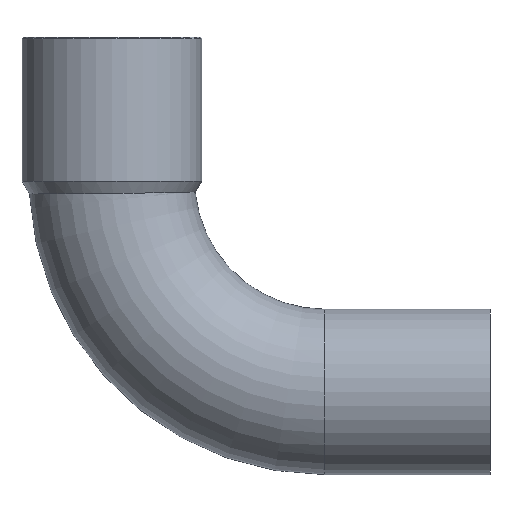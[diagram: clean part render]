
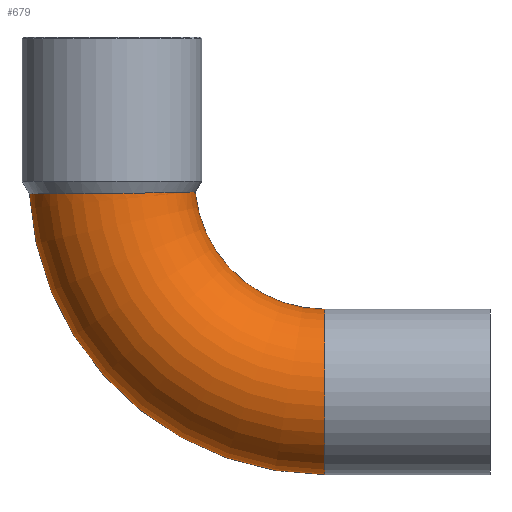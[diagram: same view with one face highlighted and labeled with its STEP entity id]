
A CAD part, front view. The second image highlights one B-rep face of the part: STEP entity #679.
In plain terms, the highlighted toroidal (fillet/blend) face has major radius 18 mm and minor radius 7 mm.
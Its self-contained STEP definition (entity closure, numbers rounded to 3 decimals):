
#49=CARTESIAN_POINT('',(-2.933,0.,-1.255));
#50=VERTEX_POINT('',#49);
#51=CARTESIAN_POINT('',(22.035,0.,-25.0));
#52=VERTEX_POINT('',#51);
#53=CARTESIAN_POINT('',(22.035,0.,0.0));
#54=DIRECTION('',(0.0,-1.0,0.0));
#55=DIRECTION('',(0.0,0.0,-1.0));
#56=AXIS2_PLACEMENT_3D('',#53,#54,#55);
#57=CIRCLE('',#56,25.0);
#58=EDGE_CURVE('',#50,#52,#57,.T.);
#60=CARTESIAN_POINT('',(11.091,0.,-1.104));
#61=VERTEX_POINT('',#60);
#85=CARTESIAN_POINT('',(22.035,0.,-11.));
#86=VERTEX_POINT('',#85);
#87=CARTESIAN_POINT('',(22.035,0.,0.0));
#88=DIRECTION('',(0.0,1.0,0.0));
#89=DIRECTION('',(0.0,0.0,-1.0));
#90=AXIS2_PLACEMENT_3D('',#87,#88,#89);
#91=CIRCLE('',#90,11.);
#92=EDGE_CURVE('',#86,#61,#91,.T.);
#210=CARTESIAN_POINT('',(11.091,0.,-1.104));
#211=CARTESIAN_POINT('',(11.091,-0.06,-1.104));
#212=CARTESIAN_POINT('',(11.09,-0.12,-1.104));
#213=CARTESIAN_POINT('',(11.065,-1.09,-1.104));
#214=CARTESIAN_POINT('',(10.863,-1.987,-1.108));
#215=CARTESIAN_POINT('',(10.127,-3.655,-1.121));
#216=CARTESIAN_POINT('',(9.598,-4.41,-1.13));
#217=CARTESIAN_POINT('',(8.28,-5.676,-1.15));
#218=CARTESIAN_POINT('',(7.503,-6.175,-1.161));
#219=CARTESIAN_POINT('',(5.802,-6.846,-1.182));
#220=CARTESIAN_POINT('',(4.894,-7.012,-1.192));
#221=CARTESIAN_POINT('',(3.066,-6.987,-1.21));
#222=CARTESIAN_POINT('',(2.164,-6.796,-1.218));
#223=CARTESIAN_POINT('',(0.485,-6.081,-1.231));
#224=CARTESIAN_POINT('',(-0.276,-5.563,-1.237));
#225=CARTESIAN_POINT('',(-1.557,-4.265,-1.246));
#226=CARTESIAN_POINT('',(-2.064,-3.498,-1.249));
#227=CARTESIAN_POINT('',(-2.756,-1.813,-1.253));
#228=CARTESIAN_POINT('',(-2.933,-0.911,-1.255));
#229=CARTESIAN_POINT('',(-2.933,0.,-1.255));
#230=B_SPLINE_CURVE_WITH_KNOTS('',3,(#210,#211,#212,#213,#214,#215,#216,#217,#218,#219,#220,#221,#222,#223,#224,#225,#226,#227,#228,#229),.UNSPECIFIED.,.F.,.U.,(4,2,2,2,2,2,2,2,2,4),(-2.208,-2.19,-1.917,-1.643,-1.368,-1.094,-0.82,-0.547,-0.273,0.0),.UNSPECIFIED.);
#231=EDGE_CURVE('',#61,#50,#230,.T.);
#535=CARTESIAN_POINT('',(22.035,0.,-18.0));
#536=DIRECTION('',(-1.0,0.0,0.0));
#537=DIRECTION('',(0.0,0.0,-1.0));
#538=AXIS2_PLACEMENT_3D('',#535,#536,#537);
#539=CIRCLE('',#538,7.);
#540=EDGE_CURVE('',#52,#86,#539,.T.);
#668=CARTESIAN_POINT('',(22.035,0.,0.0));
#669=DIRECTION('',(0.0,-1.0,0.0));
#670=DIRECTION('',(0.0,0.0,-1.0));
#671=AXIS2_PLACEMENT_3D('',#668,#669,#670);
#672=TOROIDAL_SURFACE('',#671,18.0,7.);
#673=ORIENTED_EDGE('',*,*,#58,.T.);
#674=ORIENTED_EDGE('',*,*,#540,.T.);
#675=ORIENTED_EDGE('',*,*,#92,.T.);
#676=ORIENTED_EDGE('',*,*,#231,.T.);
#677=EDGE_LOOP('',(#673,#674,#675,#676));
#678=FACE_OUTER_BOUND('',#677,.T.);
#679=ADVANCED_FACE('',(#678),#672,.T.);
